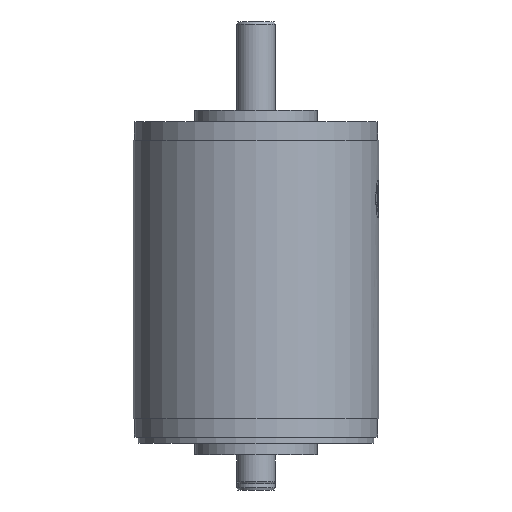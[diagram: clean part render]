
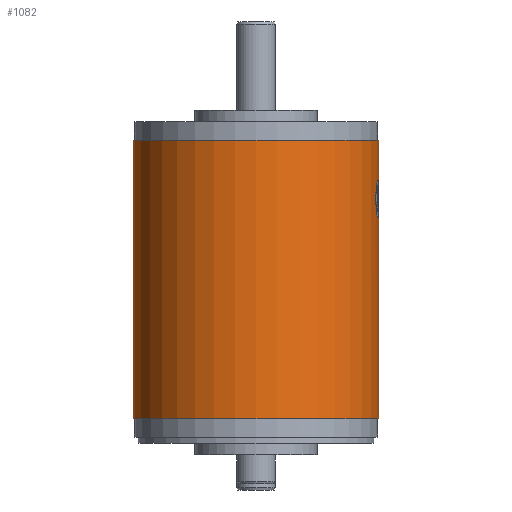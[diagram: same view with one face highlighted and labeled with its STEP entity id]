
A CAD part, left-side view. The second image highlights one B-rep face of the part: STEP entity #1082.
In plain terms, the highlighted cylindrical face has radius 16 mm (diameter 32 mm), a full revolution.
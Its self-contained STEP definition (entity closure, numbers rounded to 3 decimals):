
#771=CIRCLE('',#3883,16.);
#772=CIRCLE('',#3884,16.);
#1030=CYLINDRICAL_SURFACE('',#3885,16.);
#1082=ADVANCED_FACE('',(#1344,#1345,#1346,#1347),#1030,.T.);
#1344=FACE_BOUND('',#1545,.T.);
#1345=FACE_BOUND('',#1546,.T.);
#1346=FACE_BOUND('',#1547,.T.);
#1347=FACE_BOUND('',#1548,.T.);
#1545=EDGE_LOOP('',(#1914));
#1546=EDGE_LOOP('',(#1915));
#1547=EDGE_LOOP('',(#1916));
#1548=EDGE_LOOP('',(#1917));
#1914=ORIENTED_EDGE('',*,*,#3198,.F.);
#1915=ORIENTED_EDGE('',*,*,#3196,.F.);
#1916=ORIENTED_EDGE('',*,*,#3200,.F.);
#1917=ORIENTED_EDGE('',*,*,#3201,.T.);
#2849=VERTEX_POINT('',#5597);
#2851=VERTEX_POINT('',#5817);
#2853=VERTEX_POINT('',#5991);
#2854=VERTEX_POINT('',#5993);
#3196=EDGE_CURVE('',#2849,#2849,#3668,.T.);
#3198=EDGE_CURVE('',#2851,#2851,#3670,.T.);
#3200=EDGE_CURVE('',#2853,#2853,#771,.T.);
#3201=EDGE_CURVE('',#2854,#2854,#772,.T.);
#3668=B_SPLINE_CURVE_WITH_KNOTS('',3,(#5547,#5548,#5549,#5550,#5551,#5552,
#5553,#5554,#5555,#5556,#5557,#5558,#5559,#5560,#5561,#5562,#5563,#5564,
#5565,#5566,#5567,#5568,#5569,#5570,#5571,#5572,#5573,#5574,#5575,#5576,
#5577,#5578,#5579,#5580,#5581,#5582,#5583,#5584,#5585,#5586,#5587,#5588,
#5589,#5590,#5591,#5592,#5593,#5594,#5595,#5596),.UNSPECIFIED.,.T.,.F.,
(1,3,2,2,2,2,2,2,2,2,2,2,2,2,2,2,2,2,2,2,2,2,2,2,2,3,1),(-0.016,0.,0.016,
0.031,0.063,0.094,0.125,0.188,0.25,0.313,0.344,0.375,0.406,0.438,
0.5,0.563,0.594,0.625,0.75,0.813,0.844,0.875,0.938,0.969,0.984,
1.,1.016),.UNSPECIFIED.);
#3670=B_SPLINE_CURVE_WITH_KNOTS('',3,(#5767,#5768,#5769,#5770,#5771,#5772,
#5773,#5774,#5775,#5776,#5777,#5778,#5779,#5780,#5781,#5782,#5783,#5784,
#5785,#5786,#5787,#5788,#5789,#5790,#5791,#5792,#5793,#5794,#5795,#5796,
#5797,#5798,#5799,#5800,#5801,#5802,#5803,#5804,#5805,#5806,#5807,#5808,
#5809,#5810,#5811,#5812,#5813,#5814,#5815,#5816),.UNSPECIFIED.,.T.,.F.,
(1,3,2,2,2,2,2,2,2,2,2,2,2,2,2,2,2,2,2,2,2,2,2,2,2,3,1),(-0.016,0.,0.016,
0.031,0.063,0.094,0.125,0.188,0.25,0.313,0.344,0.375,0.406,0.438,
0.5,0.563,0.594,0.625,0.75,0.813,0.844,0.875,0.938,0.969,0.984,
1.,1.016),.UNSPECIFIED.);
#3883=AXIS2_PLACEMENT_3D('',#5990,#4198,#4199);
#3884=AXIS2_PLACEMENT_3D('',#5992,#4200,#4201);
#3885=AXIS2_PLACEMENT_3D('',#5994,#4202,#4203);
#4198=DIRECTION('',(0.,0.,-1.));
#4199=DIRECTION('',(-1.,0.,0.));
#4200=DIRECTION('',(0.,0.,-1.));
#4201=DIRECTION('',(-1.,0.,0.));
#4202=DIRECTION('',(0.,0.,-1.));
#4203=DIRECTION('',(-1.,0.,0.));
#5547=CARTESIAN_POINT('',(-0.775,-15.981,-8.078));
#5548=CARTESIAN_POINT('',(-0.811,-15.979,-8.032));
#5549=CARTESIAN_POINT('',(-0.857,-15.977,-7.98));
#5550=CARTESIAN_POINT('',(-0.95,-15.972,-7.891));
#5551=CARTESIAN_POINT('',(-0.997,-15.969,-7.852));
#5552=CARTESIAN_POINT('',(-1.146,-15.959,-7.747));
#5553=CARTESIAN_POINT('',(-1.256,-15.951,-7.692));
#5554=CARTESIAN_POINT('',(-1.497,-15.93,-7.613));
#5555=CARTESIAN_POINT('',(-1.627,-15.918,-7.59));
#5556=CARTESIAN_POINT('',(-1.9,-15.887,-7.576));
#5557=CARTESIAN_POINT('',(-2.043,-15.87,-7.584));
#5558=CARTESIAN_POINT('',(-2.433,-15.816,-7.656));
#5559=CARTESIAN_POINT('',(-2.644,-15.781,-7.767));
#5560=CARTESIAN_POINT('',(-2.992,-15.719,-8.114));
#5561=CARTESIAN_POINT('',(-3.128,-15.691,-8.351));
#5562=CARTESIAN_POINT('',(-3.319,-15.652,-8.959));
#5563=CARTESIAN_POINT('',(-3.373,-15.64,-9.329));
#5564=CARTESIAN_POINT('',(-3.396,-15.636,-9.983));
#5565=CARTESIAN_POINT('',(-3.393,-15.636,-10.217));
#5566=CARTESIAN_POINT('',(-3.372,-15.641,-10.641));
#5567=CARTESIAN_POINT('',(-3.352,-15.645,-10.83));
#5568=CARTESIAN_POINT('',(-3.296,-15.657,-11.176));
#5569=CARTESIAN_POINT('',(-3.259,-15.665,-11.333));
#5570=CARTESIAN_POINT('',(-3.168,-15.683,-11.61));
#5571=CARTESIAN_POINT('',(-3.113,-15.694,-11.73));
#5572=CARTESIAN_POINT('',(-2.924,-15.731,-12.042));
#5573=CARTESIAN_POINT('',(-2.767,-15.76,-12.187));
#5574=CARTESIAN_POINT('',(-2.411,-15.818,-12.396));
#5575=CARTESIAN_POINT('',(-2.213,-15.848,-12.46));
#5576=CARTESIAN_POINT('',(-1.878,-15.89,-12.486));
#5577=CARTESIAN_POINT('',(-1.761,-15.903,-12.483));
#5578=CARTESIAN_POINT('',(-1.542,-15.926,-12.457));
#5579=CARTESIAN_POINT('',(-1.441,-15.935,-12.434));
#5580=CARTESIAN_POINT('',(-0.965,-15.975,-12.266));
#5581=CARTESIAN_POINT('',(-0.683,-15.986,-11.967));
#5582=CARTESIAN_POINT('',(-0.427,-15.995,-11.258));
#5583=CARTESIAN_POINT('',(-0.369,-15.996,-10.978));
#5584=CARTESIAN_POINT('',(-0.322,-15.997,-10.486));
#5585=CARTESIAN_POINT('',(-0.313,-15.997,-10.311));
#5586=CARTESIAN_POINT('',(-0.309,-15.997,-9.948));
#5587=CARTESIAN_POINT('',(-0.313,-15.997,-9.761));
#5588=CARTESIAN_POINT('',(-0.346,-15.996,-9.241));
#5589=CARTESIAN_POINT('',(-0.395,-15.995,-8.949));
#5590=CARTESIAN_POINT('',(-0.507,-15.992,-8.574));
#5591=CARTESIAN_POINT('',(-0.55,-15.991,-8.46));
#5592=CARTESIAN_POINT('',(-0.628,-15.988,-8.303));
#5593=CARTESIAN_POINT('',(-0.656,-15.987,-8.253));
#5594=CARTESIAN_POINT('',(-0.711,-15.984,-8.163));
#5595=CARTESIAN_POINT('',(-0.738,-15.983,-8.123));
#5596=CARTESIAN_POINT('',(-0.775,-15.981,-8.078));
#5597=CARTESIAN_POINT('',(-0.775,-15.981,-8.078));
#5767=CARTESIAN_POINT('',(2.937,-15.728,-8.078));
#5768=CARTESIAN_POINT('',(2.901,-15.735,-8.032));
#5769=CARTESIAN_POINT('',(2.856,-15.743,-7.98));
#5770=CARTESIAN_POINT('',(2.765,-15.759,-7.891));
#5771=CARTESIAN_POINT('',(2.718,-15.767,-7.852));
#5772=CARTESIAN_POINT('',(2.571,-15.792,-7.747));
#5773=CARTESIAN_POINT('',(2.462,-15.81,-7.692));
#5774=CARTESIAN_POINT('',(2.223,-15.845,-7.613));
#5775=CARTESIAN_POINT('',(2.093,-15.863,-7.59));
#5776=CARTESIAN_POINT('',(1.821,-15.897,-7.576));
#5777=CARTESIAN_POINT('',(1.678,-15.912,-7.584));
#5778=CARTESIAN_POINT('',(1.286,-15.95,-7.656));
#5779=CARTESIAN_POINT('',(1.073,-15.965,-7.767));
#5780=CARTESIAN_POINT('',(0.72,-15.985,-8.114));
#5781=CARTESIAN_POINT('',(0.58,-15.99,-8.351));
#5782=CARTESIAN_POINT('',(0.386,-15.996,-8.959));
#5783=CARTESIAN_POINT('',(0.331,-15.997,-9.329));
#5784=CARTESIAN_POINT('',(0.308,-15.997,-9.983));
#5785=CARTESIAN_POINT('',(0.31,-15.997,-10.217));
#5786=CARTESIAN_POINT('',(0.332,-15.997,-10.641));
#5787=CARTESIAN_POINT('',(0.352,-15.996,-10.83));
#5788=CARTESIAN_POINT('',(0.409,-15.995,-11.176));
#5789=CARTESIAN_POINT('',(0.447,-15.994,-11.333));
#5790=CARTESIAN_POINT('',(0.541,-15.991,-11.61));
#5791=CARTESIAN_POINT('',(0.596,-15.989,-11.73));
#5792=CARTESIAN_POINT('',(0.788,-15.981,-12.042));
#5793=CARTESIAN_POINT('',(0.948,-15.973,-12.187));
#5794=CARTESIAN_POINT('',(1.307,-15.948,-12.396));
#5795=CARTESIAN_POINT('',(1.507,-15.93,-12.46));
#5796=CARTESIAN_POINT('',(1.843,-15.894,-12.486));
#5797=CARTESIAN_POINT('',(1.96,-15.88,-12.483));
#5798=CARTESIAN_POINT('',(2.178,-15.851,-12.457));
#5799=CARTESIAN_POINT('',(2.279,-15.837,-12.434));
#5800=CARTESIAN_POINT('',(2.751,-15.766,-12.266));
#5801=CARTESIAN_POINT('',(3.028,-15.712,-11.967));
#5802=CARTESIAN_POINT('',(3.279,-15.661,-11.258));
#5803=CARTESIAN_POINT('',(3.336,-15.648,-10.978));
#5804=CARTESIAN_POINT('',(3.381,-15.639,-10.486));
#5805=CARTESIAN_POINT('',(3.39,-15.637,-10.311));
#5806=CARTESIAN_POINT('',(3.395,-15.636,-9.948));
#5807=CARTESIAN_POINT('',(3.39,-15.637,-9.761));
#5808=CARTESIAN_POINT('',(3.358,-15.644,-9.241));
#5809=CARTESIAN_POINT('',(3.31,-15.654,-8.949));
#5810=CARTESIAN_POINT('',(3.201,-15.677,-8.574));
#5811=CARTESIAN_POINT('',(3.158,-15.685,-8.46));
#5812=CARTESIAN_POINT('',(3.082,-15.7,-8.303));
#5813=CARTESIAN_POINT('',(3.054,-15.706,-8.253));
#5814=CARTESIAN_POINT('',(3.,-15.716,-8.163));
#5815=CARTESIAN_POINT('',(2.973,-15.721,-8.123));
#5816=CARTESIAN_POINT('',(2.937,-15.728,-8.078));
#5817=CARTESIAN_POINT('',(2.937,-15.728,-8.078));
#5990=CARTESIAN_POINT('',(0.,0.,-38.7));
#5991=CARTESIAN_POINT('',(-16.,0.,-38.7));
#5992=CARTESIAN_POINT('',(0.,0.,-2.4));
#5993=CARTESIAN_POINT('',(-16.,0.,-2.4));
#5994=CARTESIAN_POINT('',(0.,0.,0.));
